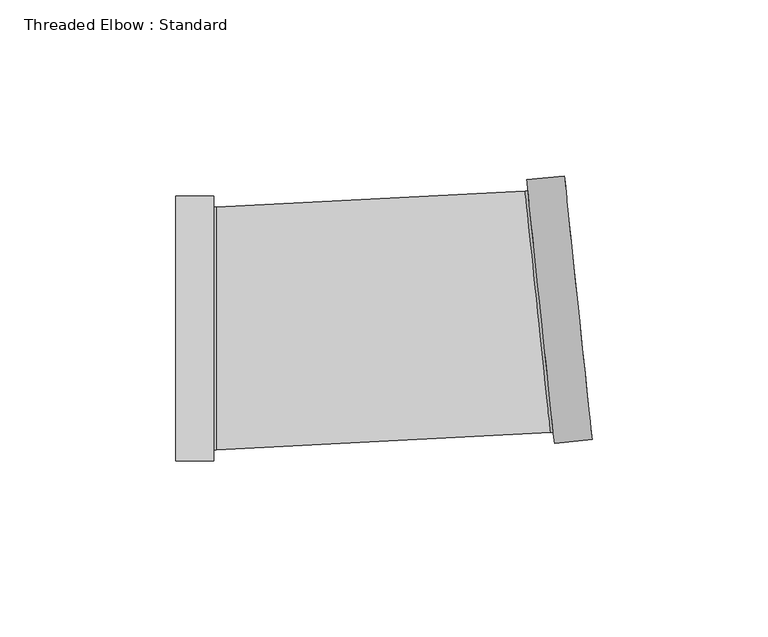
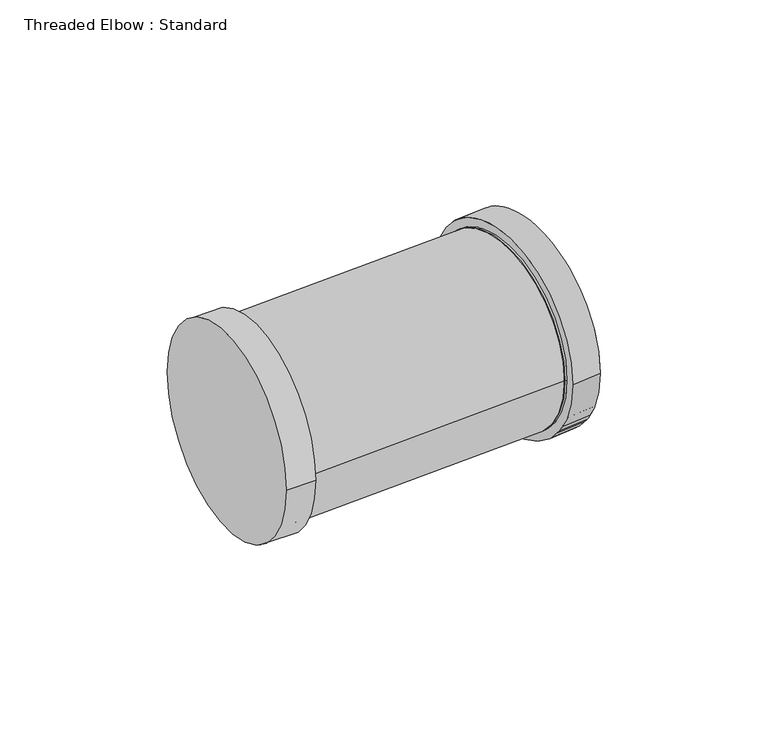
"""IFC4 building model written with IfcOpenShell, lengths in millimetres: pipe fitting geometry, Threaded Elbow : Standard."""

from ifc_helpers import new_model, si_unit, point, frame, origin, place, context, project, spatial, circle_curve, ellipse_curve, trimmed, source, transform, mapped, element, save
from ifc_brep_helpers import plane_surface, cylinder_surface, revolved_surface, advanced_brep


def threaded_elbow_standard_748a37ac(model_context):
    return source(origin(), model_context, "Body", "AdvancedBrep", [
        advanced_brep(
        [(50.265237, -32.5742974, 0.0), (42.3942437, 42.3132013, 0.0), (42.7193272, 39.2202382, 0.0), (49.9401535, -29.4813343, 0.0), (60.9066213, -31.4558429, 0.0), (53.035628, 43.4316558, 0.0), (49.1507517, -29.5643038, 0.0), (41.9299255, 39.1372687, 0.0)],
        [
            (0, 1, circle_curve(frame((46.3297403, 4.8694519, 0.0), z_axis=(-0.9945218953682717, -0.10452846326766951, 0.0), x_axis=(-0.10452846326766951, 0.9945218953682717, 0.0)), 37.65)),
            (1, 0, circle_curve(frame((46.3297403, 4.8694519, 0.0), z_axis=(-0.9945218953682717, -0.10452846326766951, 0.0), x_axis=(-0.10452846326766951, 0.9945218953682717, 0.0)), 37.65)),
            (2, 3, circle_curve(frame((46.3297403, 4.8694519, 0.0), z_axis=(0.9945218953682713, 0.10452846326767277, 0.0), x_axis=(-0.10452846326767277, 0.9945218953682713, 0.0)), 34.54)),
            (3, 2, circle_curve(frame((46.3297403, 4.8694519, 0.0), z_axis=(0.9945218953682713, 0.10452846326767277, 0.0), x_axis=(-0.10452846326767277, 0.9945218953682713, 0.0)), 34.54)),
            (4, 5, circle_curve(frame((56.9711246, 5.9879065, 0.0), z_axis=(0.9945218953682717, 0.10452846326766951, 0.0), x_axis=(-0.10452846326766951, 0.9945218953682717, 0.0)), 37.65)),
            (5, 4, circle_curve(frame((56.9711246, 5.9879065, 0.0), z_axis=(0.9945218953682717, 0.10452846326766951, 0.0), x_axis=(-0.10452846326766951, 0.9945218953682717, 0.0)), 37.65)),
            (0, 4),
            (5, 1),
            (6, 7, circle_curve(frame((45.5403386, 4.7864825, 0.0), z_axis=(-0.9945218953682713, -0.10452846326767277, 0.0), x_axis=(-0.10452846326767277, 0.9945218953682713, 0.0)), 34.54)),
            (7, 6, circle_curve(frame((45.5403386, 4.7864825, 0.0), z_axis=(-0.9945218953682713, -0.10452846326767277, 0.0), x_axis=(-0.10452846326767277, 0.9945218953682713, 0.0)), 34.54)),
            (6, 3),
            (2, 7),
        ],
        [
            plane_surface(frame((46.3297403, 4.8694519, 0.0), z_axis=(-0.9945218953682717, -0.10452846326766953, 0.0), x_axis=(0.0, 0.0, 1.0))),
            plane_surface(frame((56.9711246, 5.9879065, 0.0), z_axis=(0.9945218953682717, 0.10452846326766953, 0.0), x_axis=(0.0, 0.0, 1.0))),
            cylinder_surface(frame((46.3297403, 4.8694519, 0.0), z_axis=(-0.9945218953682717, -0.10452846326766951, 0.0), x_axis=(-0.10452846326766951, 0.9945218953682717, 0.0)), 37.65),
            plane_surface(frame((45.5403386, 4.7864825, 0.0), z_axis=(-0.9945218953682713, -0.10452846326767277, 0.0), x_axis=(0.0, 0.0, 1.0))),
            cylinder_surface(frame((45.5403386, 4.7864825, 0.0), z_axis=(-0.9945218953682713, -0.10452846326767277, 0.0), x_axis=(-0.10452846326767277, 0.9945218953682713, 0.0)), 34.54),
        ],
        [
            (0, [[1, 2], [3, 4]]),
            (1, [[5, 6]]),
            (2, [[-1, 7, -6, 8]]),
            (2, [[-2, -8, -5, -7]]),
            (3, [[9, 10]]),
            (4, [[-9, 11, -3, 12]]),
            (4, [[-10, -12, -4, -11]]),
        ],
    ),
        advanced_brep(
        [(-46.5849375, 37.65, 0.0), (-46.5849375, -37.65, 0.0), (-46.5849375, -34.54, 0.0), (-46.5849375, 34.54, 0.0), (-57.2849375, 37.65, 0.0), (-57.2849375, -37.65, 0.0), (-45.7911875, 34.54, 0.0), (-45.7911875, -34.54, 0.0)],
        [
            (0, 1, circle_curve(frame((-46.5849375, 0.0, 0.0), z_axis=(1.0, 0.0, 0.0), x_axis=(0.0, -1.0, 0.0)), 37.65)),
            (1, 0, circle_curve(frame((-46.5849375, 0.0, 0.0), z_axis=(1.0, 0.0, 0.0), x_axis=(0.0, -1.0, 0.0)), 37.65)),
            (2, 3, circle_curve(frame((-46.5849375, 0.0, 0.0), z_axis=(-1.0, 0.0, 0.0), x_axis=(0.0, -1.0, 0.0)), 34.54)),
            (3, 2, circle_curve(frame((-46.5849375, 0.0, 0.0), z_axis=(-1.0, 0.0, 0.0), x_axis=(0.0, -1.0, 0.0)), 34.54)),
            (4, 5, circle_curve(frame((-57.2849375, 0.0, 0.0), z_axis=(-1.0, 0.0, 0.0), x_axis=(0.0, -1.0, 0.0)), 37.65)),
            (5, 4, circle_curve(frame((-57.2849375, 0.0, 0.0), z_axis=(-1.0, 0.0, 0.0), x_axis=(0.0, -1.0, 0.0)), 37.65)),
            (0, 4),
            (5, 1),
            (6, 7, circle_curve(frame((-45.7911875, 0.0, 0.0), z_axis=(1.0, 0.0, 0.0), x_axis=(0.0, -1.0, 0.0)), 34.54)),
            (7, 6, circle_curve(frame((-45.7911875, 0.0, 0.0), z_axis=(1.0, 0.0, 0.0), x_axis=(0.0, -1.0, 0.0)), 34.54)),
            (6, 3),
            (2, 7),
        ],
        [
            plane_surface(frame((-46.5849375, 0.0, 0.0), z_axis=(1.0, 0.0, 0.0), x_axis=(0.0, 0.0, 1.0))),
            plane_surface(frame((-57.2849375, 0.0, 0.0), z_axis=(-1.0, 0.0, 0.0), x_axis=(0.0, 0.0, 1.0))),
            cylinder_surface(frame((-46.5849375, 0.0, 0.0), z_axis=(1.0, 0.0, 0.0), x_axis=(0.0, -1.0, 0.0)), 37.65),
            plane_surface(frame((-45.7911875, 0.0, 0.0), z_axis=(1.0, 0.0, 0.0), x_axis=(0.0, 0.0, 1.0))),
            cylinder_surface(frame((-45.7911875, 0.0, 0.0), z_axis=(1.0, 0.0, 0.0), x_axis=(0.0, -1.0, 0.0)), 34.54),
        ],
        [
            (0, [[1, 2], [3, 4]]),
            (1, [[5, 6]]),
            (2, [[-1, 7, -6, 8]]),
            (2, [[-2, -8, -5, -7]]),
            (3, [[9, 10]]),
            (4, [[-9, 11, -3, 12]]),
            (4, [[-10, -12, -4, -11]]),
        ],
    ),
        advanced_brep(
        [(53.035628, 43.4316558, 0.0), (60.9066213, -31.4558429, 0.0), (42.3942437, 42.3132013, 0.0), (50.265237, -32.5742974, 0.0), (42.7193272, 39.2202382, 0.0), (49.9401535, -29.4813343, 0.0), (49.1507517, -29.5643038, 0.0), (41.9299255, 39.1372687, 0.0)],
        [
            (0, 1, circle_curve(frame((56.9711246, 5.9879065, 0.0), z_axis=(0.9945218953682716, 0.10452846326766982, 0.0), x_axis=(0.10452846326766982, -0.9945218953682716, 0.0)), 37.65)),
            (1, 0, circle_curve(frame((56.9711246, 5.9879065, 0.0), z_axis=(0.9945218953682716, 0.10452846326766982, 0.0), x_axis=(0.10452846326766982, -0.9945218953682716, 0.0)), 37.65)),
            (2, 3, circle_curve(frame((46.3297403, 4.8694519, 0.0), z_axis=(-0.9945218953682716, -0.10452846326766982, 0.0), x_axis=(0.10452846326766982, -0.9945218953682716, 0.0)), 37.65)),
            (3, 2, circle_curve(frame((46.3297403, 4.8694519, 0.0), z_axis=(-0.9945218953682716, -0.10452846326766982, 0.0), x_axis=(0.10452846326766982, -0.9945218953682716, 0.0)), 37.65)),
            (4, 5, circle_curve(frame((46.3297403, 4.8694519, 0.0), z_axis=(0.9945218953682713, 0.10452846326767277, 0.0), x_axis=(-0.10452846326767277, 0.9945218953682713, 0.0)), 34.54)),
            (5, 4, circle_curve(frame((46.3297403, 4.8694519, 0.0), z_axis=(0.9945218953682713, 0.10452846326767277, 0.0), x_axis=(-0.10452846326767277, 0.9945218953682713, 0.0)), 34.54)),
            (0, 2),
            (3, 1),
            (6, 7, circle_curve(frame((45.5403386, 4.7864825, 0.0), z_axis=(-0.9945218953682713, -0.10452846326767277, 0.0), x_axis=(-0.10452846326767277, 0.9945218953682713, 0.0)), 34.54)),
            (7, 6, circle_curve(frame((45.5403386, 4.7864825, 0.0), z_axis=(-0.9945218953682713, -0.10452846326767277, 0.0), x_axis=(-0.10452846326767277, 0.9945218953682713, 0.0)), 34.54)),
            (6, 5),
            (4, 7),
        ],
        [
            plane_surface(frame((56.9711246, 5.9879065, 0.0), z_axis=(0.9945218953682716, 0.10452846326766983, 0.0), x_axis=(0.0, 0.0, 1.0))),
            plane_surface(frame((46.3297403, 4.8694519, 0.0), z_axis=(-0.9945218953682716, -0.10452846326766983, 0.0), x_axis=(0.0, 0.0, 1.0))),
            cylinder_surface(frame((56.9711246, 5.9879065, 0.0), z_axis=(0.9945218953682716, 0.10452846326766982, 0.0), x_axis=(0.10452846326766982, -0.9945218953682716, 0.0)), 37.65),
            plane_surface(frame((45.5403386, 4.7864825, 0.0), z_axis=(-0.9945218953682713, -0.10452846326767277, 0.0), x_axis=(0.0, 0.0, 1.0))),
            cylinder_surface(frame((45.5403386, 4.7864825, 0.0), z_axis=(-0.9945218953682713, -0.10452846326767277, 0.0), x_axis=(-0.10452846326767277, 0.9945218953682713, 0.0)), 34.54),
        ],
        [
            (0, [[1, 2]]),
            (1, [[3, 4], [5, 6]]),
            (2, [[-1, 7, -4, 8]]),
            (2, [[-2, -8, -3, -7]]),
            (3, [[9, 10]]),
            (4, [[-9, 11, -5, 12]]),
            (4, [[-10, -12, -6, -11]]),
        ],
    ),
        advanced_brep(
        [(-46.5849375, -37.65, 0.0), (-46.5849375, 37.65, 0.0), (-46.5849375, -34.54, 0.0), (-46.5849375, 34.54, 0.0), (-57.2849375, -37.65, 0.0), (-57.2849375, 37.65, 0.0), (-45.7911875, 34.54, 0.0), (-45.7911875, -34.54, 0.0)],
        [
            (0, 1, circle_curve(frame((-46.5849375, 0.0, 0.0), z_axis=(1.0, 0.0, 0.0), x_axis=(0.0, 1.0, 0.0)), 37.65)),
            (1, 0, circle_curve(frame((-46.5849375, 0.0, 0.0), z_axis=(1.0, 0.0, 0.0), x_axis=(0.0, 1.0, 0.0)), 37.65)),
            (2, 3, circle_curve(frame((-46.5849375, 0.0, 0.0), z_axis=(-1.0, 0.0, 0.0), x_axis=(0.0, -1.0, 0.0)), 34.54)),
            (3, 2, circle_curve(frame((-46.5849375, 0.0, 0.0), z_axis=(-1.0, 0.0, 0.0), x_axis=(0.0, -1.0, 0.0)), 34.54)),
            (4, 5, circle_curve(frame((-57.2849375, 0.0, 0.0), z_axis=(-1.0, 0.0, 0.0), x_axis=(0.0, 1.0, 0.0)), 37.65)),
            (5, 4, circle_curve(frame((-57.2849375, 0.0, 0.0), z_axis=(-1.0, 0.0, 0.0), x_axis=(0.0, 1.0, 0.0)), 37.65)),
            (0, 4),
            (5, 1),
            (6, 7, circle_curve(frame((-45.7911875, 0.0, 0.0), z_axis=(1.0, 0.0, 0.0), x_axis=(0.0, -1.0, 0.0)), 34.54)),
            (7, 6, circle_curve(frame((-45.7911875, 0.0, 0.0), z_axis=(1.0, 0.0, 0.0), x_axis=(0.0, -1.0, 0.0)), 34.54)),
            (6, 3),
            (2, 7),
        ],
        [
            plane_surface(frame((-46.5849375, 37.65, 0.0), z_axis=(1.0, 0.0, 0.0), x_axis=(0.0, 0.0, 1.0))),
            plane_surface(frame((-57.2849375, 37.65, 0.0), z_axis=(-1.0, 0.0, 0.0), x_axis=(0.0, 0.0, -1.0))),
            cylinder_surface(frame((-57.2849375, 0.0, 0.0), z_axis=(1.0, 0.0, 0.0), x_axis=(0.0, 1.0, 0.0)), 37.65),
            plane_surface(frame((-45.7911875, 0.0, 0.0), z_axis=(1.0, 0.0, 0.0), x_axis=(0.0, 0.0, 1.0))),
            cylinder_surface(frame((-45.7911875, 0.0, 0.0), z_axis=(1.0, 0.0, 0.0), x_axis=(0.0, -1.0, 0.0)), 34.54),
        ],
        [
            (0, [[1, 2], [3, 4]]),
            (1, [[5, 6]]),
            (2, [[-1, 7, -6, 8]]),
            (2, [[-2, -8, -5, -7]]),
            (3, [[9, 10]]),
            (4, [[-9, 11, -3, 12]]),
            (4, [[-10, -12, -4, -11]]),
        ],
    ),
        advanced_brep(
        [(49.1507517, -29.5643038, 0.0), (41.9299255, 39.1372687, 0.0), (-45.7911875, -34.54, 0.0), (-45.7911875, 34.54, 0.0)],
        [
            (0, 1, circle_curve(frame((45.5403386, 4.7864825, 0.0), z_axis=(0.9945218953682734, 0.10452846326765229, 0.0), x_axis=(-0.10452846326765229, 0.9945218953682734, 0.0)), 34.54)),
            (1, 0, circle_curve(frame((45.5403386, 4.7864825, 0.0), z_axis=(0.9945218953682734, 0.10452846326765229, 0.0), x_axis=(-0.10452846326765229, 0.9945218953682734, 0.0)), 34.54)),
            (2, 3, circle_curve(frame((-45.7911875, 0.0, 0.0), z_axis=(-1.0, 0.0, 0.0), x_axis=(0.0, 1.0, 0.0)), 34.54)),
            (3, 2, circle_curve(frame((-45.7911875, 0.0, 0.0), z_axis=(-1.0, 0.0, 0.0), x_axis=(0.0, 1.0, 0.0)), 34.54)),
            (3, 1, circle_curve(frame((-45.7911875, 873.7479078, 0.0), z_axis=(0.0, 0.0, 1.0), x_axis=(1.0, 0.0, 0.0)), 839.2079078)),
            (0, 2, circle_curve(frame((-45.7911875, 873.7479078, 0.0), z_axis=(0.0, 0.0, -1.0), x_axis=(1.0, 0.0, 0.0)), 908.2879078)),
        ],
        [
            plane_surface(frame((45.5403386, 4.7864825, 0.0), z_axis=(0.9945218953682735, 0.10452846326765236, 0.0), x_axis=(0.0, 0.0, -1.0))),
            plane_surface(frame((-45.7911875, 0.0, 0.0), z_axis=(-1.0, 0.0, 0.0), x_axis=(0.0, 0.0, -1.0))),
            revolved_surface(trimmed(ellipse_curve(frame((827.9567203, 873.7479078, 0.0), z_axis=(0.0, -1.0, 0.0), x_axis=(-1.0, 0.0, 0.0)), 34.54, 34.54), [point((793.4167203, 873.7479078, 0.0))], [point((862.4967203, 873.7479078, 0.0))], True, "CARTESIAN"), (-45.7911875, 873.7479078, 0.0), (0.0, 0.0, 1.0)),
            revolved_surface(trimmed(ellipse_curve(frame((827.9567203, 873.7479078, 0.0), z_axis=(0.0, -1.0, 0.0), x_axis=(-1.0, 0.0, 0.0)), 34.54, 34.54), [point((862.4967203, 873.7479078, 0.0))], [point((793.4167203, 873.7479078, 0.0))], True, "CARTESIAN"), (-45.7911875, 873.7479078, 0.0), (0.0, 0.0, 1.0)),
        ],
        [
            (0, [[1, 2]]),
            (1, [[3, 4]]),
            (2, [[-4, 5, -1, 6]]),
            (3, [[-3, -6, -2, -5]]),
        ],
    ),
        advanced_brep(
        [(49.1507517, -29.5643038, 0.0), (41.9299255, 39.1372687, 0.0), (-45.7911875, -34.54, 0.0), (-45.7911875, 34.54, 0.0)],
        [
            (0, 1, circle_curve(frame((45.5403386, 4.7864825, 0.0), z_axis=(0.9945218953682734, 0.10452846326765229, 0.0), x_axis=(-0.10452846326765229, 0.9945218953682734, 0.0)), 34.54)),
            (1, 0, circle_curve(frame((45.5403386, 4.7864825, 0.0), z_axis=(0.9945218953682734, 0.10452846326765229, 0.0), x_axis=(-0.10452846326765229, 0.9945218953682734, 0.0)), 34.54)),
            (2, 3, circle_curve(frame((-45.7911875, 0.0, 0.0), z_axis=(-1.0, 0.0, 0.0), x_axis=(0.0, 1.0, 0.0)), 34.54)),
            (3, 2, circle_curve(frame((-45.7911875, 0.0, 0.0), z_axis=(-1.0, 0.0, 0.0), x_axis=(0.0, 1.0, 0.0)), 34.54)),
            (3, 1, circle_curve(frame((-45.7911875, 873.7479078, 0.0), z_axis=(0.0, 0.0, 1.0), x_axis=(1.0, 0.0, 0.0)), 839.2079078)),
            (0, 2, circle_curve(frame((-45.7911875, 873.7479078, 0.0), z_axis=(0.0, 0.0, -1.0), x_axis=(1.0, 0.0, 0.0)), 908.2879078)),
        ],
        [
            plane_surface(frame((45.5403386, 4.7864825, 0.0), z_axis=(0.9945218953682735, 0.10452846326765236, 0.0), x_axis=(0.0, 0.0, -1.0))),
            plane_surface(frame((-45.7911875, 0.0, 0.0), z_axis=(-1.0, 0.0, 0.0), x_axis=(0.0, 0.0, -1.0))),
            revolved_surface(trimmed(ellipse_curve(frame((827.9567203, 873.7479078, 0.0), z_axis=(0.0, -1.0, 0.0), x_axis=(-1.0, 0.0, 0.0)), 34.54, 34.54), [point((793.4167203, 873.7479078, 0.0))], [point((862.4967203, 873.7479078, 0.0))], True, "CARTESIAN"), (-45.7911875, 873.7479078, 0.0), (0.0, 0.0, 1.0)),
            revolved_surface(trimmed(ellipse_curve(frame((827.9567203, 873.7479078, 0.0), z_axis=(0.0, -1.0, 0.0), x_axis=(-1.0, 0.0, 0.0)), 34.54, 34.54), [point((862.4967203, 873.7479078, 0.0))], [point((793.4167203, 873.7479078, 0.0))], True, "CARTESIAN"), (-45.7911875, 873.7479078, 0.0), (0.0, 0.0, 1.0)),
        ],
        [
            (0, [[1, 2]]),
            (1, [[3, 4]]),
            (2, [[-4, 5, -1, 6]]),
            (3, [[-3, -6, -2, -5]]),
        ],
    ),
    ])


if __name__ == "__main__":
    model = new_model("IFC4")
    model_context = context("Model", 3, world=origin())
    ifc_project = project(units=[si_unit("LENGTHUNIT", "METRE", prefix="MILLI")], contexts=[model_context])
    site = spatial("IfcSite", under=ifc_project)
    building = spatial("IfcBuilding", under=site)
    placement = place(None, origin())
    threaded_elbow_standard_shape = threaded_elbow_standard_748a37ac(model_context)
    element("IfcPipeFitting", 1, ObjectType="Threaded Elbow : Standard", at=placement, inside=building, context=model_context, shape_type="MappedRepresentation", body=[
        mapped(threaded_elbow_standard_shape, transform((0.0, 0.0, 0.0), x_axis=(1.0, 0.0, 0.0), y_axis=(0.0, 1.0, 0.0), z_axis=(0.0, 0.0, 1.0))),
    ])
    save(model, "model.ifc")
